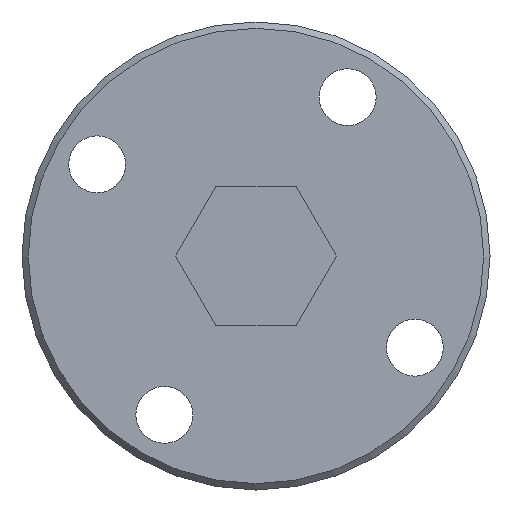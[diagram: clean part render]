
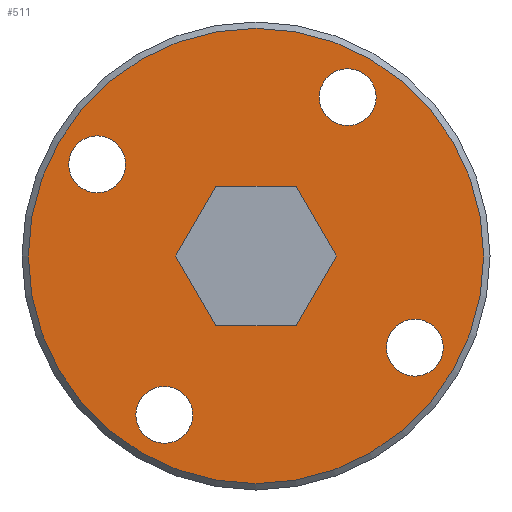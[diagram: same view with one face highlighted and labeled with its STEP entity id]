
A CAD part, left-side view. The second image highlights one B-rep face of the part: STEP entity #511.
In plain terms, the highlighted planar face has unit normal (-1, 0, 0).
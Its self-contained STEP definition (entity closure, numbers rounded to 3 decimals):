
#377=CARTESIAN_POINT('',(135.0,18.0,0.));
#378=VERTEX_POINT('',#377);
#379=CARTESIAN_POINT('',(135.0,0.0,0.0));
#380=DIRECTION('',(1.0,0.0,0.0));
#381=DIRECTION('',(0.0,-1.0,0.0));
#382=AXIS2_PLACEMENT_3D('',#379,#380,#381);
#383=CIRCLE('',#382,18.0);
#384=EDGE_CURVE('',#378,#378,#383,.T.);
#409=CARTESIAN_POINT('',(135.0,0.0,5.25));
#410=DIRECTION('',(-1.0,0.0,0.0));
#411=DIRECTION('',(0.0,0.0,1.0));
#412=AXIS2_PLACEMENT_3D('',#409,#410,#411);
#413=PLANE('',#412);
#414=ORIENTED_EDGE('',*,*,#384,.F.);
#415=EDGE_LOOP('',(#414));
#416=FACE_OUTER_BOUND('',#415,.T.);
#417=CARTESIAN_POINT('',(135.0,-3.175,-5.5));
#418=VERTEX_POINT('',#417);
#419=CARTESIAN_POINT('',(135.0,3.175,-5.5));
#420=VERTEX_POINT('',#419);
#421=CARTESIAN_POINT('',(135.0,-3.175,-5.5));
#422=DIRECTION('',(0.0,1.0,0.0));
#423=VECTOR('',#422,6.351);
#424=LINE('',#421,#423);
#425=EDGE_CURVE('',#418,#420,#424,.T.);
#426=ORIENTED_EDGE('',*,*,#425,.T.);
#427=CARTESIAN_POINT('',(135.0,6.351,0.0));
#428=VERTEX_POINT('',#427);
#429=CARTESIAN_POINT('',(135.0,3.175,-5.5));
#430=DIRECTION('',(0.0,0.5,0.866));
#431=VECTOR('',#430,6.351);
#432=LINE('',#429,#431);
#433=EDGE_CURVE('',#420,#428,#432,.T.);
#434=ORIENTED_EDGE('',*,*,#433,.T.);
#435=CARTESIAN_POINT('',(135.0,3.175,5.5));
#436=VERTEX_POINT('',#435);
#437=CARTESIAN_POINT('',(135.0,6.351,0.0));
#438=DIRECTION('',(0.0,-0.5,0.866));
#439=VECTOR('',#438,6.351);
#440=LINE('',#437,#439);
#441=EDGE_CURVE('',#428,#436,#440,.T.);
#442=ORIENTED_EDGE('',*,*,#441,.T.);
#443=CARTESIAN_POINT('',(135.0,-3.175,5.5));
#444=VERTEX_POINT('',#443);
#445=CARTESIAN_POINT('',(135.0,3.175,5.5));
#446=DIRECTION('',(0.0,-1.0,0.0));
#447=VECTOR('',#446,6.351);
#448=LINE('',#445,#447);
#449=EDGE_CURVE('',#436,#444,#448,.T.);
#450=ORIENTED_EDGE('',*,*,#449,.T.);
#451=CARTESIAN_POINT('',(135.0,-6.351,0.0));
#452=VERTEX_POINT('',#451);
#453=CARTESIAN_POINT('',(135.0,-3.175,5.5));
#454=DIRECTION('',(0.0,-0.5,-0.866));
#455=VECTOR('',#454,6.351);
#456=LINE('',#453,#455);
#457=EDGE_CURVE('',#444,#452,#456,.T.);
#458=ORIENTED_EDGE('',*,*,#457,.T.);
#459=CARTESIAN_POINT('',(135.0,-6.351,0.0));
#460=DIRECTION('',(0.0,0.5,-0.866));
#461=VECTOR('',#460,6.351);
#462=LINE('',#459,#461);
#463=EDGE_CURVE('',#452,#418,#462,.T.);
#464=ORIENTED_EDGE('',*,*,#463,.T.);
#465=EDGE_LOOP('',(#426,#434,#442,#450,#458,#464));
#466=FACE_BOUND('',#465,.T.);
#467=CARTESIAN_POINT('',(135.0,-5.,12.557));
#468=VERTEX_POINT('',#467);
#469=CARTESIAN_POINT('',(135.0,-7.25,12.557));
#470=DIRECTION('',(1.0,0.0,0.0));
#471=DIRECTION('',(0.0,1.0,0.0));
#472=AXIS2_PLACEMENT_3D('',#469,#470,#471);
#473=CIRCLE('',#472,2.25);
#474=EDGE_CURVE('',#468,#468,#473,.T.);
#475=ORIENTED_EDGE('',*,*,#474,.T.);
#476=EDGE_LOOP('',(#475));
#477=FACE_BOUND('',#476,.T.);
#478=CARTESIAN_POINT('',(135.0,-12.557,-5.));
#479=VERTEX_POINT('',#478);
#480=CARTESIAN_POINT('',(135.0,-12.557,-7.25));
#481=DIRECTION('',(1.0,0.0,0.0));
#482=DIRECTION('',(0.0,0.0,1.0));
#483=AXIS2_PLACEMENT_3D('',#480,#481,#482);
#484=CIRCLE('',#483,2.25);
#485=EDGE_CURVE('',#479,#479,#484,.T.);
#486=ORIENTED_EDGE('',*,*,#485,.T.);
#487=EDGE_LOOP('',(#486));
#488=FACE_BOUND('',#487,.T.);
#489=CARTESIAN_POINT('',(135.0,5.,-12.557));
#490=VERTEX_POINT('',#489);
#491=CARTESIAN_POINT('',(135.0,7.25,-12.557));
#492=DIRECTION('',(1.0,0.0,0.0));
#493=DIRECTION('',(0.0,-1.0,0.0));
#494=AXIS2_PLACEMENT_3D('',#491,#492,#493);
#495=CIRCLE('',#494,2.25);
#496=EDGE_CURVE('',#490,#490,#495,.T.);
#497=ORIENTED_EDGE('',*,*,#496,.T.);
#498=EDGE_LOOP('',(#497));
#499=FACE_BOUND('',#498,.T.);
#500=CARTESIAN_POINT('',(135.0,12.557,5.));
#501=VERTEX_POINT('',#500);
#502=CARTESIAN_POINT('',(135.0,12.557,7.25));
#503=DIRECTION('',(1.0,0.0,0.0));
#504=DIRECTION('',(0.0,0.0,-1.0));
#505=AXIS2_PLACEMENT_3D('',#502,#503,#504);
#506=CIRCLE('',#505,2.25);
#507=EDGE_CURVE('',#501,#501,#506,.T.);
#508=ORIENTED_EDGE('',*,*,#507,.T.);
#509=EDGE_LOOP('',(#508));
#510=FACE_BOUND('',#509,.T.);
#511=ADVANCED_FACE('',(#416,#466,#477,#488,#499,#510),#413,.T.);
